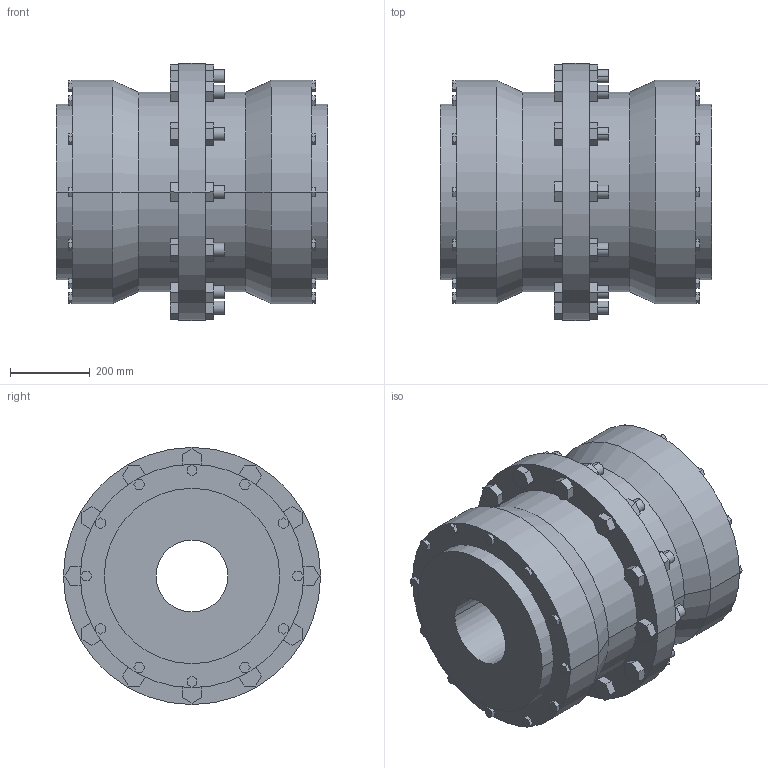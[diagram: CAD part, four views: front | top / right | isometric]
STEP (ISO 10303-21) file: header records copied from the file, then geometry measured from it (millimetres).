
FILE_DESCRIPTION((''),'2;1');
FILE_NAME('A18983200-0_ASM','2018-09-26T',('AB_Roschiwal'),('RENK AG'),'PRO/ENGINEER BY PARAMETRIC TECHNOLOGY CORPORATION, 2015440','PRO/ENGINEER BY PARAMETRIC TECHNOLOGY CORPORATION, 2015440','');
FILE_SCHEMA(('CONFIG_CONTROL_DESIGN'));
Length unit declared in the file: millimetre
Products named in the file (3): SBK265_GEHAEUSE; SBK265_NABE; A18983200-0_ASM
Assembly tree (3 placements, depth 2):
  A18983200-0_ASM
    SBK265_GEHAEUSE
    SBK265_NABE  x2
Bounding box: 680 x 645 x 645 mm (x, y, z)
Volume: 130806597 mm3; surface area: 4320157 mm2
Topology: 3 solids, 3 shells, 422 faces, 1036 edges, 688 vertices
Faces by surface type: plane 362, cylinder 56, cone 4
Entity records: 12052 total; most frequent: CARTESIAN_POINT 2100, ORIENTED_EDGE 2024, DIRECTION 1940, EDGE_CURVE 1012, VECTOR 916, LINE 916, VERTEX_POINT 672, AXIS2_PLACEMENT_3D 512
